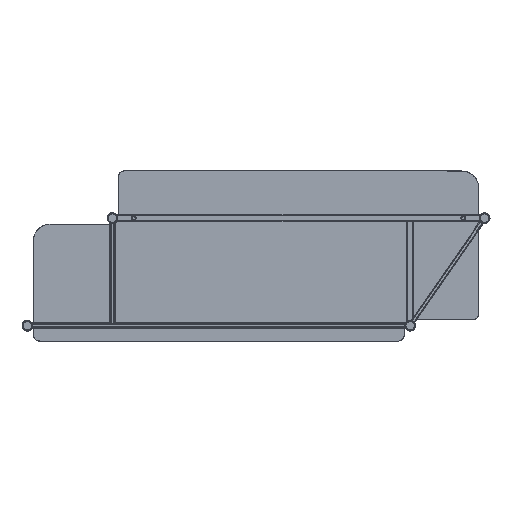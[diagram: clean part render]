
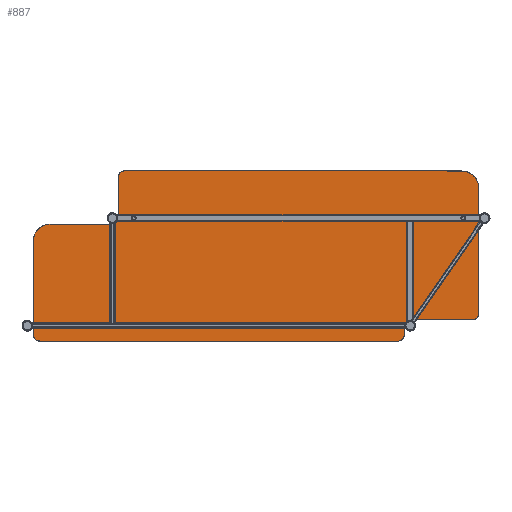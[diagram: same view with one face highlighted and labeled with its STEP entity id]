
A CAD part, front view. The second image highlights one B-rep face of the part: STEP entity #887.
In plain terms, the highlighted planar face has unit normal (0, 1, 0).
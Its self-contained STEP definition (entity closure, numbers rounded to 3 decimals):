
#58=FACE_BOUND($,#1421,.T.);
#59=FACE_BOUND($,#1422,.T.);
#60=FACE_BOUND($,#1423,.T.);
#61=FACE_BOUND($,#1424,.T.);
#165=PLANE($,#4791);
#887=ADVANCED_FACE($,(#1130,#58,#59,#60,#61),#165,.T.);
#1130=FACE_OUTER_BOUND($,#1420,.T.);
#1420=EDGE_LOOP($,(#2129));
#1421=EDGE_LOOP($,(#2130));
#1422=EDGE_LOOP($,(#2131));
#1423=EDGE_LOOP($,(#2132));
#1424=EDGE_LOOP($,(#2133));
#2129=ORIENTED_EDGE($,*,*,#2886,.T.);
#2130=ORIENTED_EDGE($,*,*,#2887,.T.);
#2131=ORIENTED_EDGE($,*,*,#2888,.T.);
#2132=ORIENTED_EDGE($,*,*,#2889,.T.);
#2133=ORIENTED_EDGE($,*,*,#2890,.T.);
#2886=EDGE_CURVE($,#3643,#3643,#4579,.T.);
#2887=EDGE_CURVE($,#3644,#3644,#4580,.T.);
#2888=EDGE_CURVE($,#3645,#3645,#4581,.T.);
#2889=EDGE_CURVE($,#3646,#3646,#4582,.T.);
#2890=EDGE_CURVE($,#3647,#3647,#4583,.T.);
#3643=VERTEX_POINT($,#11413);
#3644=VERTEX_POINT($,#11414);
#3645=VERTEX_POINT($,#11415);
#3646=VERTEX_POINT($,#11416);
#3647=VERTEX_POINT($,#11417);
#4579=(
BOUNDED_CURVE()
B_SPLINE_CURVE(2,(#11343,#11344,#11345,#11346,#11347,#11348,#11349,#11350,
#11351,#11352,#11353,#11354,#11355,#11356,#11357,#11358,#11359,#11360,#11361,
#11362,#11363,#11364,#11365,#11366,#11367,#11368,#11369,#11370,#11371,#11372,
#11373,#11374,#11375),.UNSPECIFIED.,.T.,.F.)
B_SPLINE_CURVE_WITH_KNOTS((3,2,2,2,2,2,2,2,2,2,2,2,2,2,2,2,3),(0.,1.,2.571,
3.571,5.142,6.142,7.712,8.712,
10.283,11.283,12.854,13.854,15.425,
16.425,17.996,18.996,20.566),.UNSPECIFIED.)
CURVE()
GEOMETRIC_REPRESENTATION_ITEM()
RATIONAL_B_SPLINE_CURVE((1.,1.,1.,0.707,1.,1.,1.,0.707,
1.,1.,1.,0.707,1.,1.,1.,0.707,1.,1.,1.,0.707,
1.,1.,1.,0.707,1.,1.,1.,0.707,1.,1.,1.,0.707,
1.))
REPRESENTATION_ITEM($)
);
#4580=(
BOUNDED_CURVE()
B_SPLINE_CURVE(2,(#11376,#11377,#11378,#11379,#11380,#11381,#11382,#11383,
#11384),.UNSPECIFIED.,.T.,.F.)
B_SPLINE_CURVE_WITH_KNOTS((3,2,2,2,3),(0.,1.571,3.142,
4.712,6.283),.UNSPECIFIED.)
CURVE()
GEOMETRIC_REPRESENTATION_ITEM()
RATIONAL_B_SPLINE_CURVE((1.,0.707,1.,0.707,1.,0.707,
1.,0.707,1.))
REPRESENTATION_ITEM($)
);
#4581=(
BOUNDED_CURVE()
B_SPLINE_CURVE(2,(#11385,#11386,#11387,#11388,#11389,#11390,#11391,#11392,
#11393),.UNSPECIFIED.,.T.,.F.)
B_SPLINE_CURVE_WITH_KNOTS((3,2,2,2,3),(0.,1.571,3.142,
4.712,6.283),.UNSPECIFIED.)
CURVE()
GEOMETRIC_REPRESENTATION_ITEM()
RATIONAL_B_SPLINE_CURVE((1.,0.707,1.,0.707,1.,0.707,
1.,0.707,1.))
REPRESENTATION_ITEM($)
);
#4582=(
BOUNDED_CURVE()
B_SPLINE_CURVE(2,(#11394,#11395,#11396,#11397,#11398,#11399,#11400,#11401,
#11402),.UNSPECIFIED.,.T.,.F.)
B_SPLINE_CURVE_WITH_KNOTS((3,2,2,2,3),(0.,1.571,3.142,
4.712,6.283),.UNSPECIFIED.)
CURVE()
GEOMETRIC_REPRESENTATION_ITEM()
RATIONAL_B_SPLINE_CURVE((1.,0.707,1.,0.707,1.,0.707,
1.,0.707,1.))
REPRESENTATION_ITEM($)
);
#4583=(
BOUNDED_CURVE()
B_SPLINE_CURVE(2,(#11403,#11404,#11405,#11406,#11407,#11408,#11409,#11410,
#11411),.UNSPECIFIED.,.T.,.F.)
B_SPLINE_CURVE_WITH_KNOTS((3,2,2,2,3),(0.,1.571,3.142,
4.712,6.283),.UNSPECIFIED.)
CURVE()
GEOMETRIC_REPRESENTATION_ITEM()
RATIONAL_B_SPLINE_CURVE((1.,0.707,1.,0.707,1.,0.707,
1.,0.707,1.))
REPRESENTATION_ITEM($)
);
#4791=AXIS2_PLACEMENT_3D($,#11412,#4906,$);
#4906=DIRECTION($,(0.,1.,0.));
#11343=CARTESIAN_POINT($,(-483.5,710.,75.));
#11344=CARTESIAN_POINT($,(-410.5,710.,75.));
#11345=CARTESIAN_POINT($,(-337.5,710.,75.));
#11346=CARTESIAN_POINT($,(-323.5,710.,75.));
#11347=CARTESIAN_POINT($,(-323.5,710.,89.));
#11348=CARTESIAN_POINT($,(-323.5,710.,137.5));
#11349=CARTESIAN_POINT($,(-323.5,710.,186.));
#11350=CARTESIAN_POINT($,(-323.5,710.,200.));
#11351=CARTESIAN_POINT($,(-309.5,710.,200.));
#11352=CARTESIAN_POINT($,(87.,710.,200.));
#11353=CARTESIAN_POINT($,(483.5,710.,200.));
#11354=CARTESIAN_POINT($,(523.5,710.,200.));
#11355=CARTESIAN_POINT($,(523.5,710.,160.));
#11356=CARTESIAN_POINT($,(523.5,710.,12.));
#11357=CARTESIAN_POINT($,(523.5,710.,-136.));
#11358=CARTESIAN_POINT($,(523.5,710.,-150.));
#11359=CARTESIAN_POINT($,(509.5,710.,-150.));
#11360=CARTESIAN_POINT($,(436.,710.,-150.));
#11361=CARTESIAN_POINT($,(362.5,710.,-150.));
#11362=CARTESIAN_POINT($,(348.5,710.,-150.));
#11363=CARTESIAN_POINT($,(348.5,710.,-164.));
#11364=CARTESIAN_POINT($,(348.5,710.,-175.));
#11365=CARTESIAN_POINT($,(348.5,710.,-186.));
#11366=CARTESIAN_POINT($,(348.5,710.,-200.));
#11367=CARTESIAN_POINT($,(334.5,710.,-200.));
#11368=CARTESIAN_POINT($,(-87.5,710.,-200.));
#11369=CARTESIAN_POINT($,(-509.5,710.,-200.));
#11370=CARTESIAN_POINT($,(-523.5,710.,-200.));
#11371=CARTESIAN_POINT($,(-523.5,710.,-186.));
#11372=CARTESIAN_POINT($,(-523.5,710.,-75.5));
#11373=CARTESIAN_POINT($,(-523.5,710.,35.));
#11374=CARTESIAN_POINT($,(-523.5,710.,75.));
#11375=CARTESIAN_POINT($,(-483.5,710.,75.));
#11376=CARTESIAN_POINT($,(487.5,710.,84.));
#11377=CARTESIAN_POINT($,(492.5,710.,84.));
#11378=CARTESIAN_POINT($,(492.5,710.,89.));
#11379=CARTESIAN_POINT($,(492.5,710.,94.));
#11380=CARTESIAN_POINT($,(487.5,710.,94.));
#11381=CARTESIAN_POINT($,(482.5,710.,94.));
#11382=CARTESIAN_POINT($,(482.5,710.,89.));
#11383=CARTESIAN_POINT($,(482.5,710.,84.));
#11384=CARTESIAN_POINT($,(487.5,710.,84.));
#11385=CARTESIAN_POINT($,(312.5,710.,-169.));
#11386=CARTESIAN_POINT($,(317.5,710.,-169.));
#11387=CARTESIAN_POINT($,(317.5,710.,-164.));
#11388=CARTESIAN_POINT($,(317.5,710.,-159.));
#11389=CARTESIAN_POINT($,(312.5,710.,-159.));
#11390=CARTESIAN_POINT($,(307.5,710.,-159.));
#11391=CARTESIAN_POINT($,(307.5,710.,-164.));
#11392=CARTESIAN_POINT($,(307.5,710.,-169.));
#11393=CARTESIAN_POINT($,(312.5,710.,-169.));
#11394=CARTESIAN_POINT($,(-487.5,710.,-169.));
#11395=CARTESIAN_POINT($,(-482.5,710.,-169.));
#11396=CARTESIAN_POINT($,(-482.5,710.,-164.));
#11397=CARTESIAN_POINT($,(-482.5,710.,-159.));
#11398=CARTESIAN_POINT($,(-487.5,710.,-159.));
#11399=CARTESIAN_POINT($,(-492.5,710.,-159.));
#11400=CARTESIAN_POINT($,(-492.5,710.,-164.));
#11401=CARTESIAN_POINT($,(-492.5,710.,-169.));
#11402=CARTESIAN_POINT($,(-487.5,710.,-169.));
#11403=CARTESIAN_POINT($,(-287.5,710.,84.));
#11404=CARTESIAN_POINT($,(-282.5,710.,84.));
#11405=CARTESIAN_POINT($,(-282.5,710.,89.));
#11406=CARTESIAN_POINT($,(-282.5,710.,94.));
#11407=CARTESIAN_POINT($,(-287.5,710.,94.));
#11408=CARTESIAN_POINT($,(-292.5,710.,94.));
#11409=CARTESIAN_POINT($,(-292.5,710.,89.));
#11410=CARTESIAN_POINT($,(-292.5,710.,84.));
#11411=CARTESIAN_POINT($,(-287.5,710.,84.));
#11412=CARTESIAN_POINT($,(-523.5,710.,-200.));
#11413=CARTESIAN_POINT($,(-483.5,710.,75.));
#11414=CARTESIAN_POINT($,(487.5,710.,84.));
#11415=CARTESIAN_POINT($,(312.5,710.,-169.));
#11416=CARTESIAN_POINT($,(-487.5,710.,-169.));
#11417=CARTESIAN_POINT($,(-287.5,710.,84.));
